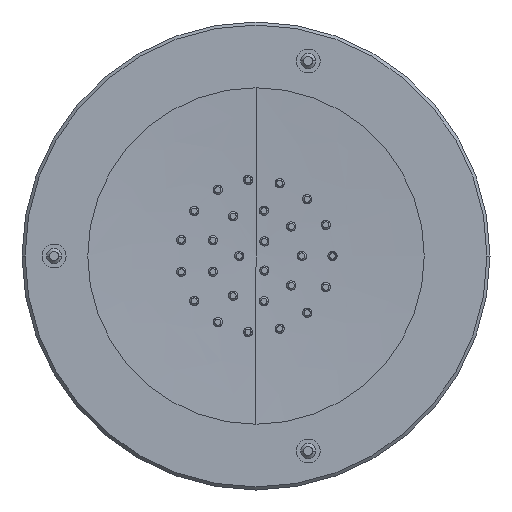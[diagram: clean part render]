
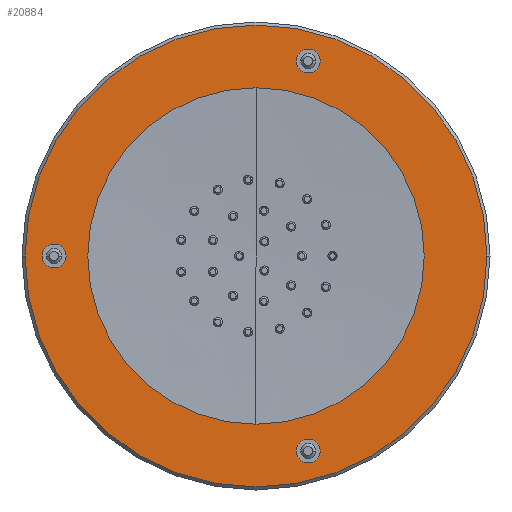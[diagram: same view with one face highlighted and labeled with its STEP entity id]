
A CAD part, left-side view. The second image highlights one B-rep face of the part: STEP entity #20884.
In plain terms, the highlighted planar face has unit normal (-1, 0, 0).
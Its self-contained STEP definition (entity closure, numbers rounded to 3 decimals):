
#3469=CARTESIAN_POINT('',(-12.5,0.,0.));
#3470=DIRECTION('',(1.,0.,0.));
#3471=DIRECTION('',(0.,1.,0.));
#3472=AXIS2_PLACEMENT_3D('',#3469,#3470,#3471);
#3474=CARTESIAN_POINT('',(-12.5,0.,0.));
#3475=DIRECTION('',(1.,0.,0.));
#3476=DIRECTION('',(0.,0.,1.));
#3477=AXIS2_PLACEMENT_3D('',#3474,#3475,#3476);
#3479=CARTESIAN_POINT('',(-12.5,0.,0.));
#3480=DIRECTION('',(1.,0.,0.));
#3481=DIRECTION('',(0.,-1.,0.));
#3482=AXIS2_PLACEMENT_3D('',#3479,#3480,#3481);
#3484=CARTESIAN_POINT('',(-12.5,0.,0.));
#3485=DIRECTION('',(1.,0.,0.));
#3486=DIRECTION('',(0.,0.,-1.));
#3487=AXIS2_PLACEMENT_3D('',#3484,#3485,#3486);
#3489=CARTESIAN_POINT('',(-12.5,-1.708,6.375));
#3490=DIRECTION('',(-1.,0.,0.));
#3491=DIRECTION('',(0.,-1.,0.));
#3492=AXIS2_PLACEMENT_3D('',#3489,#3490,#3491);
#3494=CARTESIAN_POINT('',(-12.5,-1.708,6.375));
#3495=DIRECTION('',(-1.,0.,0.));
#3496=DIRECTION('',(0.,1.,0.));
#3497=AXIS2_PLACEMENT_3D('',#3494,#3495,#3496);
#3499=CARTESIAN_POINT('',(-12.5,-1.708,-6.375));
#3500=DIRECTION('',(-1.,0.,0.));
#3501=DIRECTION('',(0.,-1.,0.));
#3502=AXIS2_PLACEMENT_3D('',#3499,#3500,#3501);
#3504=CARTESIAN_POINT('',(-12.5,-1.708,-6.375));
#3505=DIRECTION('',(-1.,0.,0.));
#3506=DIRECTION('',(0.,1.,0.));
#3507=AXIS2_PLACEMENT_3D('',#3504,#3505,#3506);
#3509=CARTESIAN_POINT('',(-12.5,6.6,0.));
#3510=DIRECTION('',(-1.,0.,0.));
#3511=DIRECTION('',(0.,-1.,0.));
#3512=AXIS2_PLACEMENT_3D('',#3509,#3510,#3511);
#3514=CARTESIAN_POINT('',(-12.5,6.6,0.));
#3515=DIRECTION('',(-1.,0.,0.));
#3516=DIRECTION('',(0.,1.,0.));
#3517=AXIS2_PLACEMENT_3D('',#3514,#3515,#3516);
#3519=CARTESIAN_POINT('',(-12.5,0.,0.));
#3520=DIRECTION('',(-1.,0.,0.));
#3521=DIRECTION('',(0.,-1.,0.));
#3522=AXIS2_PLACEMENT_3D('',#3519,#3520,#3521);
#3524=CARTESIAN_POINT('',(-12.5,0.,0.));
#3525=DIRECTION('',(-1.,0.,0.));
#3526=DIRECTION('',(0.,1.,0.));
#3527=AXIS2_PLACEMENT_3D('',#3524,#3525,#3526);
#10946=CARTESIAN_POINT('',(-12.5,0.,7.55));
#10947=CARTESIAN_POINT('',(-12.5,-7.55,0.));
#10948=VERTEX_POINT('',#10946);
#10949=VERTEX_POINT('',#10947);
#10950=CARTESIAN_POINT('',(-12.5,7.55,0.));
#10951=VERTEX_POINT('',#10950);
#10952=CARTESIAN_POINT('',(-12.5,0.,-7.55));
#10953=VERTEX_POINT('',#10952);
#10954=CARTESIAN_POINT('',(-12.5,-2.098,6.375));
#10955=CARTESIAN_POINT('',(-12.5,-1.318,6.375));
#10956=VERTEX_POINT('',#10954);
#10957=VERTEX_POINT('',#10955);
#10958=CARTESIAN_POINT('',(-12.5,-2.098,-6.375));
#10959=CARTESIAN_POINT('',(-12.5,-1.318,-6.375));
#10960=VERTEX_POINT('',#10958);
#10961=VERTEX_POINT('',#10959);
#10962=CARTESIAN_POINT('',(-12.5,6.21,0.));
#10963=CARTESIAN_POINT('',(-12.5,6.99,0.));
#10964=VERTEX_POINT('',#10962);
#10965=VERTEX_POINT('',#10963);
#10966=CARTESIAN_POINT('',(-12.5,-5.5,0.));
#10967=CARTESIAN_POINT('',(-12.5,5.5,0.));
#10968=VERTEX_POINT('',#10966);
#10969=VERTEX_POINT('',#10967);
#20847=CARTESIAN_POINT('',(-12.5,0.,0.));
#20848=DIRECTION('',(1.,0.,0.));
#20849=DIRECTION('',(0.,-1.,0.));
#20850=AXIS2_PLACEMENT_3D('',#20847,#20848,#20849);
#20851=PLANE('',#20850);
#20852=ORIENTED_EDGE('',*,*,#20829,.T.);
#20853=ORIENTED_EDGE('',*,*,#20827,.T.);
#20855=ORIENTED_EDGE('',*,*,#20854,.T.);
#20857=ORIENTED_EDGE('',*,*,#20856,.T.);
#20858=EDGE_LOOP('',(#20852,#20853,#20855,#20857));
#20859=FACE_OUTER_BOUND('',#20858,.F.);
#20861=ORIENTED_EDGE('',*,*,#20860,.T.);
#20863=ORIENTED_EDGE('',*,*,#20862,.T.);
#20864=EDGE_LOOP('',(#20861,#20863));
#20865=FACE_BOUND('',#20864,.F.);
#20867=ORIENTED_EDGE('',*,*,#20866,.T.);
#20869=ORIENTED_EDGE('',*,*,#20868,.T.);
#20870=EDGE_LOOP('',(#20867,#20869));
#20871=FACE_BOUND('',#20870,.F.);
#20873=ORIENTED_EDGE('',*,*,#20872,.T.);
#20875=ORIENTED_EDGE('',*,*,#20874,.T.);
#20876=EDGE_LOOP('',(#20873,#20875));
#20877=FACE_BOUND('',#20876,.F.);
#20879=ORIENTED_EDGE('',*,*,#20878,.T.);
#20881=ORIENTED_EDGE('',*,*,#20880,.T.);
#20882=EDGE_LOOP('',(#20879,#20881));
#20883=FACE_BOUND('',#20882,.F.);
#3473=CIRCLE('',#3472,7.55);
#3478=CIRCLE('',#3477,7.55);
#3483=CIRCLE('',#3482,7.55);
#3488=CIRCLE('',#3487,7.55);
#3493=CIRCLE('',#3492,0.39);
#3498=CIRCLE('',#3497,0.39);
#3503=CIRCLE('',#3502,0.39);
#3508=CIRCLE('',#3507,0.39);
#3513=CIRCLE('',#3512,0.39);
#3518=CIRCLE('',#3517,0.39);
#3523=CIRCLE('',#3522,5.5);
#3528=CIRCLE('',#3527,5.5);
#20827=EDGE_CURVE('',#10948,#10949,#3478,.T.);
#20829=EDGE_CURVE('',#10951,#10948,#3473,.T.);
#20854=EDGE_CURVE('',#10949,#10953,#3483,.T.);
#20856=EDGE_CURVE('',#10953,#10951,#3488,.T.);
#20860=EDGE_CURVE('',#10956,#10957,#3493,.T.);
#20862=EDGE_CURVE('',#10957,#10956,#3498,.T.);
#20866=EDGE_CURVE('',#10960,#10961,#3503,.T.);
#20868=EDGE_CURVE('',#10961,#10960,#3508,.T.);
#20872=EDGE_CURVE('',#10964,#10965,#3513,.T.);
#20874=EDGE_CURVE('',#10965,#10964,#3518,.T.);
#20878=EDGE_CURVE('',#10968,#10969,#3523,.T.);
#20880=EDGE_CURVE('',#10969,#10968,#3528,.T.);
#20884=ADVANCED_FACE('',(#20859,#20865,#20871,#20877,#20883),#20851,.F.);
